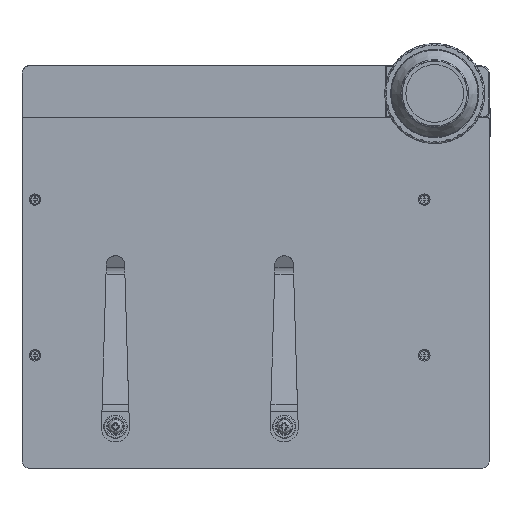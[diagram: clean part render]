
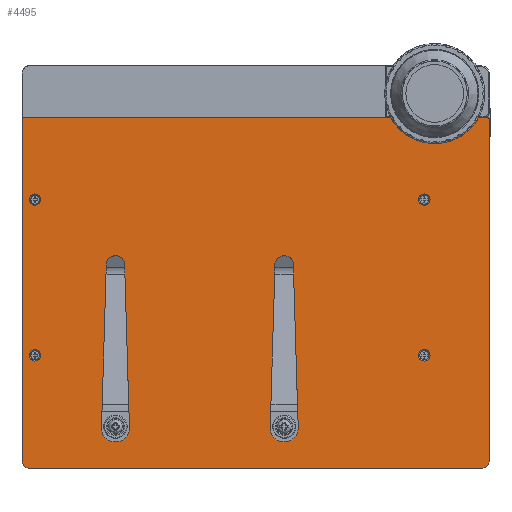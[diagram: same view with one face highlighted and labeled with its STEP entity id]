
A CAD part, top view. The second image highlights one B-rep face of the part: STEP entity #4495.
In plain terms, the highlighted planar face has unit normal (0, 0, 1).
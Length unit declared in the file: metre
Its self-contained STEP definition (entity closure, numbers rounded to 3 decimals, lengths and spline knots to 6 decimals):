
#4495=ADVANCED_FACE('31:13934',(#11998,#11999,#12000,#12001,#12002,#12003,#12004),#12005,.T.);
#6863=EDGE_CURVE('31:17720',#15463,#15464,#15465,.T.);
#6871=EDGE_CURVE('31:17714',#15475,#15476,#15477,.T.);
#6879=EDGE_CURVE('31:17708',#15487,#15488,#15489,.T.);
#6891=EDGE_CURVE('31:17702',#15505,#15506,#15507,.T.);
#6901=EDGE_CURVE('31:17699',#15520,#15520,#15521,.T.);
#6905=EDGE_CURVE('31:17726',#15526,#15526,#15527,.T.);
#6909=EDGE_CURVE('31:17696',#15532,#15532,#15533,.T.);
#6913=EDGE_CURVE('31:17729',#15538,#15538,#15539,.T.);
#6915=EDGE_CURVE('31:17693',#15541,#15541,#15542,.T.);
#6919=EDGE_CURVE('31:17690',#15547,#15547,#15548,.T.);
#8117=EDGE_CURVE('31:17705',#15488,#15505,#17112,.T.);
#8119=EDGE_CURVE('31:17711',#15476,#15487,#17114,.T.);
#8121=EDGE_CURVE('31:17717',#15464,#15475,#17116,.T.);
#8123=EDGE_CURVE('31:17723',#15506,#15463,#17118,.T.);
#11998=FACE_OUTER_BOUND('',#22400,.T.);
#11999=FACE_BOUND('',#22401,.T.);
#12000=FACE_BOUND('',#22402,.T.);
#12001=FACE_BOUND('',#22403,.T.);
#12002=FACE_BOUND('',#22404,.T.);
#12003=FACE_BOUND('',#22405,.T.);
#12004=FACE_BOUND('',#22406,.T.);
#12005=PLANE('',#22407);
#15463=VERTEX_POINT('',#28641);
#15464=VERTEX_POINT('',#28642);
#15465=CIRCLE('',#28643,0.003);
#15475=VERTEX_POINT('',#28659);
#15476=VERTEX_POINT('',#28660);
#15477=CIRCLE('',#28661,0.003);
#15487=VERTEX_POINT('',#28677);
#15488=VERTEX_POINT('',#28678);
#15489=CIRCLE('',#28679,0.0005);
#15505=VERTEX_POINT('',#28705);
#15506=VERTEX_POINT('',#28706);
#15507=CIRCLE('',#28707,0.0005);
#15520=VERTEX_POINT('',#28727);
#15521=CIRCLE('',#28728,0.0022);
#15526=VERTEX_POINT('',#28735);
#15527=CIRCLE('',#28736,0.0022);
#15532=VERTEX_POINT('',#28743);
#15533=CIRCLE('',#28744,0.0022);
#15538=VERTEX_POINT('',#28751);
#15539=CIRCLE('',#28752,0.0022);
#15541=VERTEX_POINT('',#28755);
#15542=CIRCLE('',#28756,0.0015);
#15547=VERTEX_POINT('',#28763);
#15548=CIRCLE('',#28764,0.0015);
#17112=LINE('',#32380,#32381);
#17114=LINE('',#32384,#32385);
#17116=LINE('',#32388,#32389);
#17118=LINE('',#32392,#32393);
#22400=EDGE_LOOP('',(#41522,#41523,#41524,#41525,#41526,#41527,#41528,#41529));
#22401=EDGE_LOOP('',(#41530));
#22402=EDGE_LOOP('',(#41531));
#22403=EDGE_LOOP('',(#41532));
#22404=EDGE_LOOP('',(#41533));
#22405=EDGE_LOOP('',(#41534));
#22406=EDGE_LOOP('',(#41535));
#22407=AXIS2_PLACEMENT_3D('',#41536,#41537,#41538);
#28641=CARTESIAN_POINT('',(0.09,-0.053052,0.027));
#28642=CARTESIAN_POINT('',(0.087,-0.056052,0.027));
#28643=AXIS2_PLACEMENT_3D('',#45514,#45515,#45516);
#28659=CARTESIAN_POINT('',(-0.087,-0.056052,0.027));
#28660=CARTESIAN_POINT('',(-0.09,-0.053052,0.027));
#28661=AXIS2_PLACEMENT_3D('',#45522,#45523,#45524);
#28677=CARTESIAN_POINT('',(-0.09,0.078448,0.027));
#28678=CARTESIAN_POINT('',(-0.0895,0.078948,0.027));
#28679=AXIS2_PLACEMENT_3D('',#45530,#45531,#45532);
#28705=CARTESIAN_POINT('',(0.0895,0.078948,0.027));
#28706=CARTESIAN_POINT('',(0.09,0.078448,0.027));
#28707=AXIS2_PLACEMENT_3D('',#45540,#45541,#45542);
#28727=CARTESIAN_POINT('',(0.0628,0.047448,0.027));
#28728=AXIS2_PLACEMENT_3D('',#45551,#45552,#45553);
#28735=CARTESIAN_POINT('',(0.0628,-0.012552,0.027));
#28736=AXIS2_PLACEMENT_3D('',#45557,#45558,#45559);
#28743=CARTESIAN_POINT('',(-0.0872,-0.012552,0.027));
#28744=AXIS2_PLACEMENT_3D('',#45563,#45564,#45565);
#28751=CARTESIAN_POINT('',(-0.0872,0.047448,0.027));
#28752=AXIS2_PLACEMENT_3D('',#45569,#45570,#45571);
#28755=CARTESIAN_POINT('',(-0.0525,-0.040052,0.027));
#28756=AXIS2_PLACEMENT_3D('',#45572,#45573,#45574);
#28763=CARTESIAN_POINT('',(0.0125,-0.040052,0.027));
#28764=AXIS2_PLACEMENT_3D('',#45578,#45579,#45580);
#32380=CARTESIAN_POINT('',(0.09,0.078948,0.027));
#32381=VECTOR('',#46478,1.0);
#32384=CARTESIAN_POINT('',(-0.09,0.078948,0.027));
#32385=VECTOR('',#46479,1.0);
#32388=CARTESIAN_POINT('',(-0.09,-0.056052,0.027));
#32389=VECTOR('',#46480,1.0);
#32392=CARTESIAN_POINT('',(0.09,-0.056052,0.027));
#32393=VECTOR('',#46481,1.0);
#41522=ORIENTED_EDGE('',*,*,#6891,.F.);
#41523=ORIENTED_EDGE('',*,*,#8117,.F.);
#41524=ORIENTED_EDGE('',*,*,#6879,.F.);
#41525=ORIENTED_EDGE('',*,*,#8119,.F.);
#41526=ORIENTED_EDGE('',*,*,#6871,.F.);
#41527=ORIENTED_EDGE('',*,*,#8121,.F.);
#41528=ORIENTED_EDGE('',*,*,#6863,.F.);
#41529=ORIENTED_EDGE('',*,*,#8123,.F.);
#41530=ORIENTED_EDGE('',*,*,#6919,.F.);
#41531=ORIENTED_EDGE('',*,*,#6915,.F.);
#41532=ORIENTED_EDGE('',*,*,#6909,.F.);
#41533=ORIENTED_EDGE('',*,*,#6901,.F.);
#41534=ORIENTED_EDGE('',*,*,#6905,.F.);
#41535=ORIENTED_EDGE('',*,*,#6913,.F.);
#41536=CARTESIAN_POINT('',(0.,-0.046302,0.027));
#41537=DIRECTION('',(0.0,0.0,1.0));
#41538=DIRECTION('',(1.0,0.0,0.0));
#45514=CARTESIAN_POINT('',(0.087,-0.053052,0.027));
#45515=DIRECTION('',(0.0,-0.0,-1.0));
#45516=DIRECTION('',(0.707,-0.707,0.0));
#45522=CARTESIAN_POINT('',(-0.087,-0.053052,0.027));
#45523=DIRECTION('',(-0.0,0.0,-1.0));
#45524=DIRECTION('',(-0.707,-0.707,0.0));
#45530=CARTESIAN_POINT('',(-0.0895,0.078448,0.027));
#45531=DIRECTION('',(0.0,0.0,-1.0));
#45532=DIRECTION('',(-0.707,0.707,0.0));
#45540=CARTESIAN_POINT('',(0.0895,0.078448,0.027));
#45541=DIRECTION('',(0.0,0.0,-1.0));
#45542=DIRECTION('',(0.707,0.707,0.0));
#45551=CARTESIAN_POINT('',(0.065,0.047448,0.027));
#45552=DIRECTION('',(0.0,0.0,1.0));
#45553=DIRECTION('',(-1.0,0.0,0.0));
#45557=CARTESIAN_POINT('',(0.065,-0.012552,0.027));
#45558=DIRECTION('',(0.0,0.0,1.0));
#45559=DIRECTION('',(-1.0,0.0,0.0));
#45563=CARTESIAN_POINT('',(-0.085,-0.012552,0.027));
#45564=DIRECTION('',(0.0,0.0,1.0));
#45565=DIRECTION('',(-1.0,0.0,0.0));
#45569=CARTESIAN_POINT('',(-0.085,0.047448,0.027));
#45570=DIRECTION('',(0.0,0.0,1.0));
#45571=DIRECTION('',(-1.0,0.0,0.0));
#45572=CARTESIAN_POINT('',(-0.054,-0.040052,0.027));
#45573=DIRECTION('',(0.0,0.0,1.0));
#45574=DIRECTION('',(1.0,0.0,-0.0));
#45578=CARTESIAN_POINT('',(0.011,-0.040052,0.027));
#45579=DIRECTION('',(0.0,0.0,1.0));
#45580=DIRECTION('',(1.0,0.0,-0.0));
#46478=DIRECTION('',(1.0,0.0,0.0));
#46479=DIRECTION('',(0.0,1.0,0.0));
#46480=DIRECTION('',(-1.0,-0.0,-0.0));
#46481=DIRECTION('',(-0.0,-1.0,-0.0));
